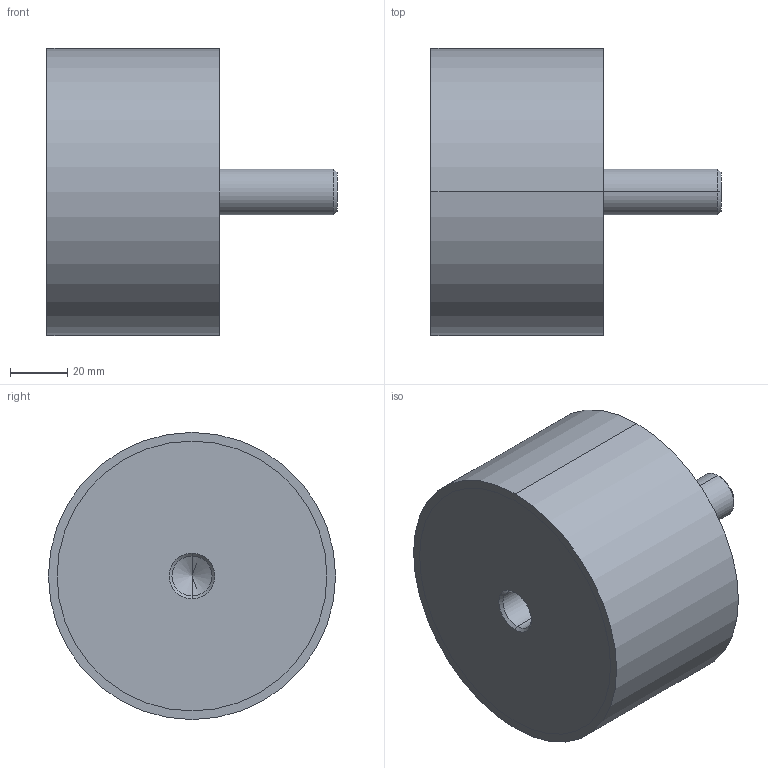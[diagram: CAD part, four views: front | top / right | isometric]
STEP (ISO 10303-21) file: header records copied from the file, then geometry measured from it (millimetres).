
FILE_DESCRIPTION (( 'STEP AP214' ), '1' );
FILE_NAME ('351-100-60-M16-ES-70.step', '2025-07-23T09:44:01', ( '' ), ( '' ), 'SwSTEP 2.0', 'SolidWorks 2022', '' );
FILE_SCHEMA (( 'AUTOMOTIVE_DESIGN' ));
Length unit declared in the file: millimetre
Products named in the file (1): 351-100-60-M16-ES-70
Bounding box: 101 x 100 x 100 mm (x, y, z)
Volume: 476394.5 mm3; surface area: 37353 mm2
Topology: 1 solids, 1 shells, 24 faces, 48 edges, 29 vertices
Faces by surface type: cylinder 12, cone 6, plane 6
Entity records: 740 total; most frequent: DIRECTION 124, CARTESIAN_POINT 100, ORIENTED_EDGE 92, AXIS2_PLACEMENT_3D 53, EDGE_CURVE 46, VERTEX_POINT 29, EDGE_LOOP 29, CIRCLE 28
